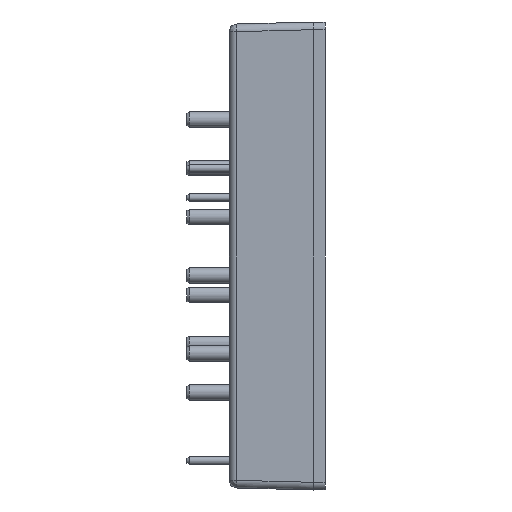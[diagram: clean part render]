
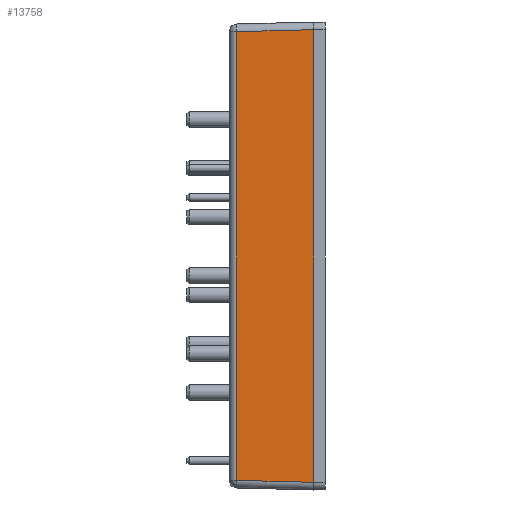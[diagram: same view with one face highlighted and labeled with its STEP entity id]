
A CAD part, left-side view. The second image highlights one B-rep face of the part: STEP entity #13758.
In plain terms, the highlighted planar face has unit normal (-1, 0.026, 0).
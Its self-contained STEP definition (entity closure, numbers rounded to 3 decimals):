
#3525 = ORIENTED_EDGE ( 'NONE', *, *, #20601, .T. ) ;
#4676 = EDGE_CURVE ( 'NONE', #40859, #34840, #17984, .T. ) ;
#4869 = DIRECTION ( 'NONE',  ( 0.026, 0.999, 0.026 ) ) ;
#6663 = AXIS2_PLACEMENT_3D ( 'NONE', #7371, #23105, #39466 ) ;
#6746 = CARTESIAN_POINT ( 'NONE',  ( -58.137, 10.026, -29.238 ) ) ;
#7371 = CARTESIAN_POINT ( 'NONE',  ( -58.4, 0., 29.5 ) ) ;
#8052 = DIRECTION ( 'NONE',  ( 0.026, 0.999, -0.026 ) ) ;
#8197 = CARTESIAN_POINT ( 'NONE',  ( -58.137, 10.026, 29.5 ) ) ;
#10322 = CARTESIAN_POINT ( 'NONE',  ( -58.4, 0., 29.5 ) ) ;
#11574 = DIRECTION ( 'NONE',  ( 0., 0., -1. ) ) ;
#13702 = LINE ( 'NONE', #17471, #34246 ) ;
#13758 = ADVANCED_FACE ( 'NONE', ( #41619 ), #19870, .T. ) ;
#13965 = VECTOR ( 'NONE', #39974, 1000. ) ;
#14733 = CARTESIAN_POINT ( 'NONE',  ( -58.36, 1.543, -29.46 ) ) ;
#16455 = VECTOR ( 'NONE', #4869, 1000. ) ;
#17471 = CARTESIAN_POINT ( 'NONE',  ( -58.4, 0., 29.5 ) ) ;
#17984 = LINE ( 'NONE', #30399, #13965 ) ;
#19637 = ORIENTED_EDGE ( 'NONE', *, *, #4676, .T. ) ;
#19870 = PLANE ( 'NONE',  #6663 ) ;
#20601 = EDGE_CURVE ( 'NONE', #34840, #37023, #13702, .T. ) ;
#21230 = CARTESIAN_POINT ( 'NONE',  ( -58.4, 0., -29.5 ) ) ;
#22366 = EDGE_LOOP ( 'NONE', ( #36342, #30697, #19637, #3525 ) ) ;
#22483 = LINE ( 'NONE', #8197, #35979 ) ;
#23105 = DIRECTION ( 'NONE',  ( -1., 0.026, 0. ) ) ;
#26078 = VERTEX_POINT ( 'NONE', #6746 ) ;
#28076 = LINE ( 'NONE', #14733, #16455 ) ;
#28625 = EDGE_CURVE ( 'NONE', #40859, #26078, #28076, .T. ) ;
#28953 = CARTESIAN_POINT ( 'NONE',  ( -58.137, 10.026, 29.238 ) ) ;
#30399 = CARTESIAN_POINT ( 'NONE',  ( -58.4, 0., -30.5 ) ) ;
#30697 = ORIENTED_EDGE ( 'NONE', *, *, #28625, .F. ) ;
#34246 = VECTOR ( 'NONE', #8052, 1000. ) ;
#34840 = VERTEX_POINT ( 'NONE', #10322 ) ;
#35735 = EDGE_CURVE ( 'NONE', #37023, #26078, #22483, .T. ) ;
#35979 = VECTOR ( 'NONE', #11574, 1000. ) ;
#36342 = ORIENTED_EDGE ( 'NONE', *, *, #35735, .T. ) ;
#37023 = VERTEX_POINT ( 'NONE', #28953 ) ;
#39466 = DIRECTION ( 'NONE',  ( -0.026, -1., 0. ) ) ;
#39974 = DIRECTION ( 'NONE',  ( 0., 0., 1. ) ) ;
#40859 = VERTEX_POINT ( 'NONE', #21230 ) ;
#41619 = FACE_OUTER_BOUND ( 'NONE', #22366, .T. ) ;
